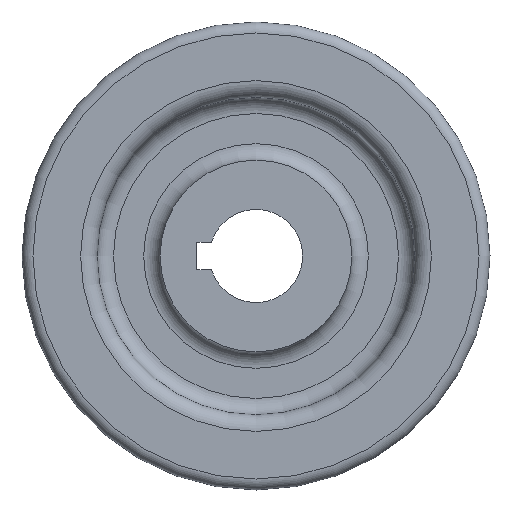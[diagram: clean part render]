
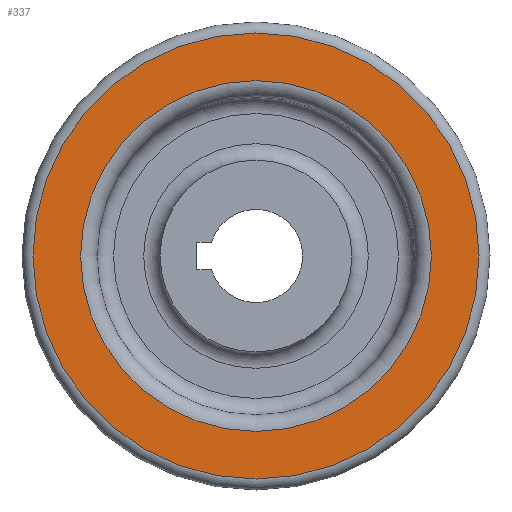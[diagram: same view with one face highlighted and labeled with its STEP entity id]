
A CAD part, left-side view. The second image highlights one B-rep face of the part: STEP entity #337.
In plain terms, the highlighted planar face has unit normal (-1, 0, 0).
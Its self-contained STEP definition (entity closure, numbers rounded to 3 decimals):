
#41=PLANE($,#371);
#51=FACE_BOUND($,#107,.T.);
#78=FACE_OUTER_BOUND($,#106,.T.);
#106=EDGE_LOOP($,(#254));
#107=EDGE_LOOP($,(#255));
#159=CIRCLE($,#370,32.);
#160=CIRCLE($,#372,40.7);
#185=VERTEX_POINT($,#549);
#186=VERTEX_POINT($,#552);
#217=EDGE_CURVE($,#185,#185,#159,.T.);
#218=EDGE_CURVE($,#186,#186,#160,.T.);
#254=ORIENTED_EDGE($,*,*,#218,.F.);
#255=ORIENTED_EDGE($,*,*,#217,.F.);
#337=ADVANCED_FACE($,(#78,#51),#41,.T.);
#370=AXIS2_PLACEMENT_3D($,#550,#429,#430);
#371=AXIS2_PLACEMENT_3D($,#551,#431,#432);
#372=AXIS2_PLACEMENT_3D($,#553,#433,#434);
#429=DIRECTION('center_axis',(-1.,0.,0.));
#430=DIRECTION('ref_axis',(0.,0.,
1.));
#431=DIRECTION('center_axis',(-1.,0.,0.));
#432=DIRECTION('ref_axis',(0.,0.,1.));
#433=DIRECTION('center_axis',(1.,0.,0.));
#434=DIRECTION('ref_axis',(0.,0.,-1.));
#549=CARTESIAN_POINT('',(-9.5,0.,-32.));
#550=CARTESIAN_POINT('Origin',(-9.5,0.,0.));
#551=CARTESIAN_POINT('Origin',(-9.5,0.,-40.7));
#552=CARTESIAN_POINT('',(-9.5,0.,-40.7));
#553=CARTESIAN_POINT('Origin',(-9.5,0.,0.));
